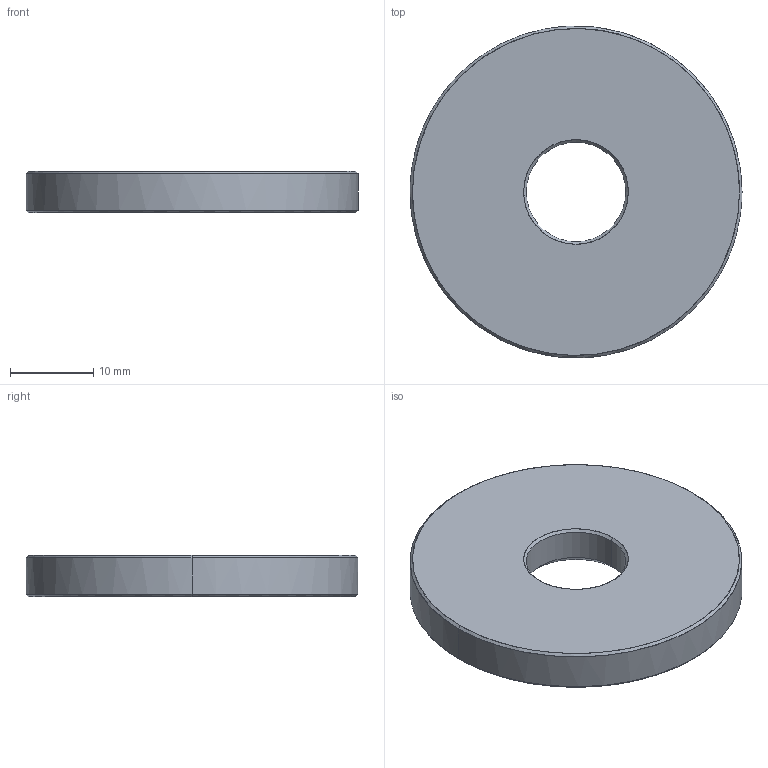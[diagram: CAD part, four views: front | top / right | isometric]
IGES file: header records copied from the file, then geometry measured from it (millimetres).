
Global section: file name: E:\UnigraphicsGraphicData\MISUMI_PRESS-PARTS\IGES\3d_r20-40_00111_r00.igs; native system: NX V5.0; preprocessor: UGS NX IGES V5.0; author: MISUMI; date: 20110105.162335; units: millimetre
Bounding box: 40 x 39.95 x 5 mm (x, y, z)
Surface area: 3031.8 mm2 (no closed solid volume)
Topology: 0 solids, 0 shells, 14 faces, 96 edges, 96 vertices
Faces by surface type: bspline 14
